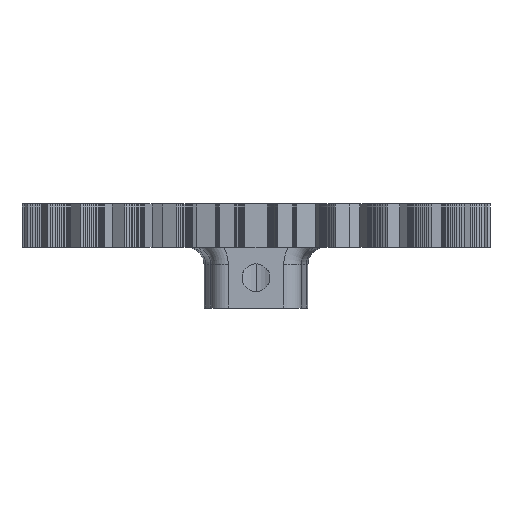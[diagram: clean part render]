
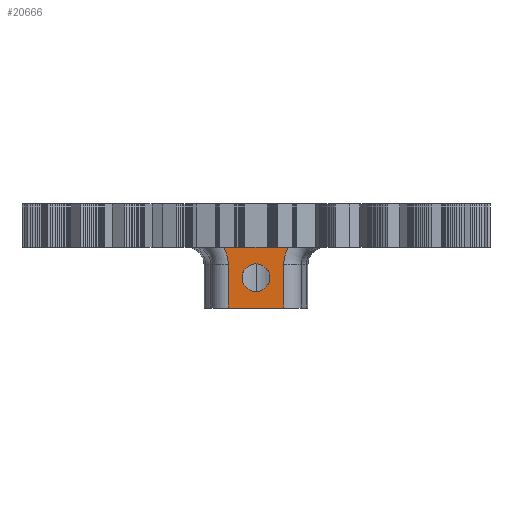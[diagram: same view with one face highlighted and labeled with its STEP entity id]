
A CAD part, left-side view. The second image highlights one B-rep face of the part: STEP entity #20666.
In plain terms, the highlighted planar face has unit normal (-1, 0, 0).
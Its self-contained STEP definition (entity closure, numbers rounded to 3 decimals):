
#711 = ORIENTED_EDGE ( 'NONE', *, *, #7105, .F. ) ;
#740 = CARTESIAN_POINT ( 'NONE',  ( -10.5, -3.196, -7. ) ) ;
#1913 = ORIENTED_EDGE ( 'NONE', *, *, #32292, .F. ) ;
#2021 = AXIS2_PLACEMENT_3D ( 'NONE', #29214, #10089, #12287 ) ;
#2122 = VECTOR ( 'NONE', #19828, 1000. ) ;
#2469 = CIRCLE ( 'NONE', #21547, 1.6 ) ;
#2485 = VERTEX_POINT ( 'NONE', #25455 ) ;
#2880 = CARTESIAN_POINT ( 'NONE',  ( -10.5, -3.196, 12.816 ) ) ;
#2980 = VERTEX_POINT ( 'NONE', #28343 ) ;
#3067 = FACE_BOUND ( 'NONE', #30986, .T. ) ;
#3104 = PLANE ( 'NONE',  #25317 ) ;
#4400 = ORIENTED_EDGE ( 'NONE', *, *, #34408, .F. ) ;
#5450 = DIRECTION ( 'NONE',  ( 0., 0., 1. ) ) ;
#5616 = VERTEX_POINT ( 'NONE', #31946 ) ;
#7105 = EDGE_CURVE ( 'NONE', #18504, #13021, #10760, .T. ) ;
#7335 = EDGE_CURVE ( 'NONE', #2980, #2485, #21987, .T. ) ;
#7569 = CARTESIAN_POINT ( 'NONE',  ( -10.5, 0., -5.1 ) ) ;
#8014 = ORIENTED_EDGE ( 'NONE', *, *, #25814, .F. ) ;
#8706 = CARTESIAN_POINT ( 'NONE',  ( -10.5, 5.196, 12.816 ) ) ;
#9705 = ORIENTED_EDGE ( 'NONE', *, *, #7335, .T. ) ;
#10089 = DIRECTION ( 'NONE',  ( 1., 0., 0. ) ) ;
#10422 = VERTEX_POINT ( 'NONE', #7569 ) ;
#10723 = CIRCLE ( 'NONE', #34323, 1.6 ) ;
#10760 = LINE ( 'NONE', #31373, #22848 ) ;
#11003 = CARTESIAN_POINT ( 'NONE',  ( -10.5, 0., -3.5 ) ) ;
#11849 = ORIENTED_EDGE ( 'NONE', *, *, #30956, .T. ) ;
#12287 = DIRECTION ( 'NONE',  ( 0., 0., 1. ) ) ;
#12447 = LINE ( 'NONE', #20062, #2122 ) ;
#12959 = VECTOR ( 'NONE', #13457, 1000. ) ;
#13021 = VERTEX_POINT ( 'NONE', #32785 ) ;
#13457 = DIRECTION ( 'NONE',  ( 0., 0., 1. ) ) ;
#13569 = DIRECTION ( 'NONE',  ( 1., 0., 0. ) ) ;
#14789 = DIRECTION ( 'NONE',  ( 0., 1., 0. ) ) ;
#16529 = DIRECTION ( 'NONE',  ( -1., 0., 0. ) ) ;
#18504 = VERTEX_POINT ( 'NONE', #740 ) ;
#18581 = CIRCLE ( 'NONE', #2021, 4. ) ;
#19330 = CARTESIAN_POINT ( 'NONE',  ( -10.5, 3.196, -2. ) ) ;
#19438 = DIRECTION ( 'NONE',  ( -1., 0., 0. ) ) ;
#19570 = DIRECTION ( 'NONE',  ( 0., 0., -1. ) ) ;
#19828 = DIRECTION ( 'NONE',  ( 0., -1., 0. ) ) ;
#20062 = CARTESIAN_POINT ( 'NONE',  ( -10.5, 5.196, 0. ) ) ;
#20666 = ADVANCED_FACE ( 'NONE', ( #3067, #28433 ), #3104, .T. ) ;
#21547 = AXIS2_PLACEMENT_3D ( 'NONE', #24698, #21817, #35587 ) ;
#21817 = DIRECTION ( 'NONE',  ( -1., 0., 0. ) ) ;
#21987 = CIRCLE ( 'NONE', #33345, 4. ) ;
#22719 = ORIENTED_EDGE ( 'NONE', *, *, #23959, .T. ) ;
#22848 = VECTOR ( 'NONE', #14789, 1000. ) ;
#22970 = VERTEX_POINT ( 'NONE', #19330 ) ;
#23959 = EDGE_CURVE ( 'NONE', #18504, #2980, #33589, .T. ) ;
#24698 = CARTESIAN_POINT ( 'NONE',  ( -10.5, 0., -3.5 ) ) ;
#24893 = VECTOR ( 'NONE', #19570, 1000. ) ;
#25119 = DIRECTION ( 'NONE',  ( 0., 0., 1. ) ) ;
#25317 = AXIS2_PLACEMENT_3D ( 'NONE', #8706, #19438, #25119 ) ;
#25361 = CARTESIAN_POINT ( 'NONE',  ( -10.5, 3.732, 0. ) ) ;
#25455 = CARTESIAN_POINT ( 'NONE',  ( -10.5, -3.732, 0. ) ) ;
#25814 = EDGE_CURVE ( 'NONE', #10422, #5616, #2469, .T. ) ;
#26444 = EDGE_CURVE ( 'NONE', #22970, #13021, #32556, .T. ) ;
#26602 = VERTEX_POINT ( 'NONE', #25361 ) ;
#27611 = CARTESIAN_POINT ( 'NONE',  ( -10.5, 3.196, 12.816 ) ) ;
#28343 = CARTESIAN_POINT ( 'NONE',  ( -10.5, -3.196, -2. ) ) ;
#28433 = FACE_OUTER_BOUND ( 'NONE', #29818, .T. ) ;
#29214 = CARTESIAN_POINT ( 'NONE',  ( -10.5, 7.196, -2. ) ) ;
#29818 = EDGE_LOOP ( 'NONE', ( #1913, #11849, #30352, #711, #22719, #9705 ) ) ;
#30019 = DIRECTION ( 'NONE',  ( 0., 0., 1. ) ) ;
#30352 = ORIENTED_EDGE ( 'NONE', *, *, #26444, .T. ) ;
#30956 = EDGE_CURVE ( 'NONE', #26602, #22970, #18581, .T. ) ;
#30986 = EDGE_LOOP ( 'NONE', ( #4400, #8014 ) ) ;
#31373 = CARTESIAN_POINT ( 'NONE',  ( -10.5, 5.196, -7. ) ) ;
#31946 = CARTESIAN_POINT ( 'NONE',  ( -10.5, 0., -1.9 ) ) ;
#32292 = EDGE_CURVE ( 'NONE', #26602, #2485, #12447, .T. ) ;
#32556 = LINE ( 'NONE', #27611, #24893 ) ;
#32654 = CARTESIAN_POINT ( 'NONE',  ( -10.5, -7.196, -2. ) ) ;
#32785 = CARTESIAN_POINT ( 'NONE',  ( -10.5, 3.196, -7. ) ) ;
#33345 = AXIS2_PLACEMENT_3D ( 'NONE', #32654, #13569, #30019 ) ;
#33589 = LINE ( 'NONE', #2880, #12959 ) ;
#34323 = AXIS2_PLACEMENT_3D ( 'NONE', #11003, #16529, #5450 ) ;
#34408 = EDGE_CURVE ( 'NONE', #5616, #10422, #10723, .T. ) ;
#35587 = DIRECTION ( 'NONE',  ( 0., 0., 1. ) ) ;
